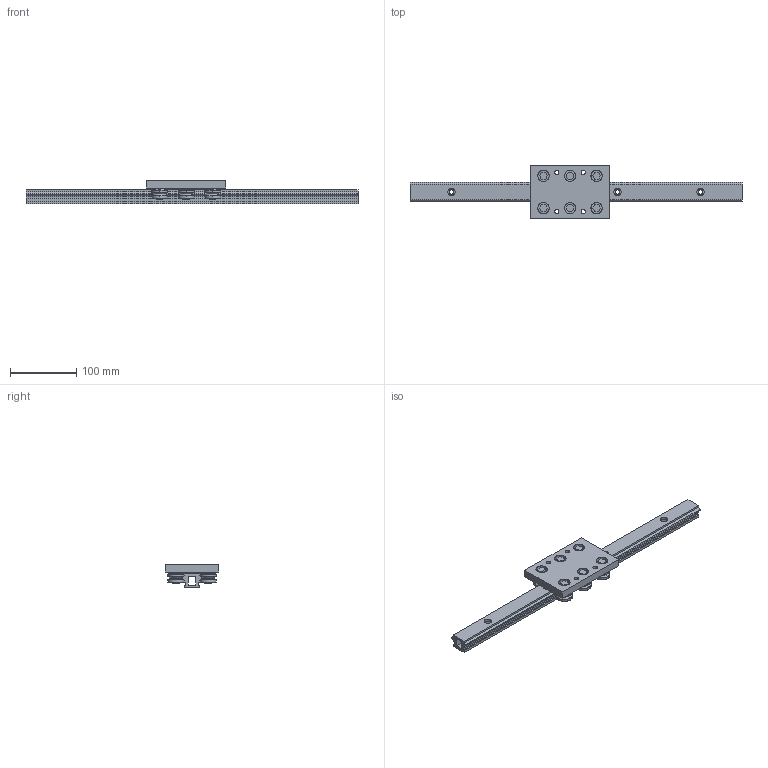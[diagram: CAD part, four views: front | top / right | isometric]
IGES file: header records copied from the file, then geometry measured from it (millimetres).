
Global section: file name: No Iges File Name specified; native system: AutoDesk Inventor R10; preprocessor: AutoDesk Inventor Iges Exporter R10; author: No Author specified; organization: No Organization specified; date: 20101224.114459; units: millimetre
Bounding box: 500 x 80 x 35.5 mm (x, y, z)
Surface area: 113441.6 mm2 (no closed solid volume)
Topology: 0 solids, 0 shells, 243 faces, 1548 edges, 1548 vertices
Faces by surface type: bspline 243
